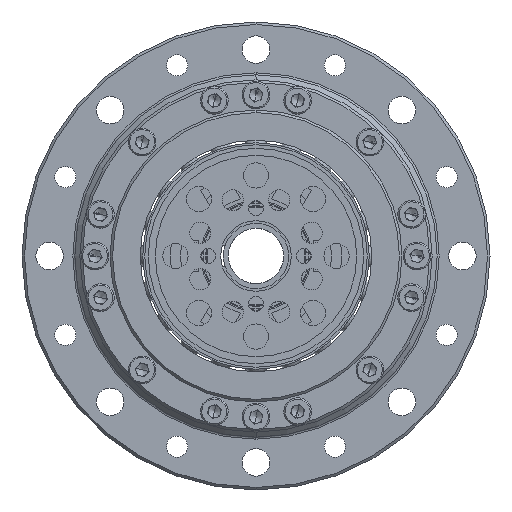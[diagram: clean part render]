
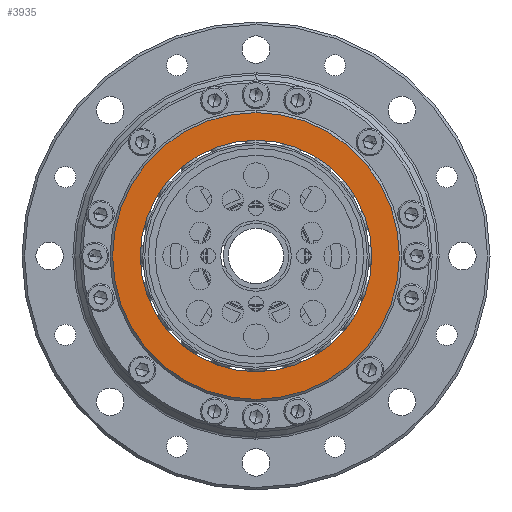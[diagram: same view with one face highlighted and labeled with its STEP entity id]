
A CAD part, left-side view. The second image highlights one B-rep face of the part: STEP entity #3935.
In plain terms, the highlighted planar face has unit normal (-1, 0, 0).
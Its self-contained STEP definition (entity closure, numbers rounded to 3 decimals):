
#675 = CARTESIAN_POINT ( 'NONE',  ( -35.653, -9.167, 64.5 ) ) ;
#779 = VERTEX_POINT ( 'NONE', #4835 ) ;
#795 = DIRECTION ( 'NONE',  ( -1., 0., 0. ) ) ;
#1321 = PLANE ( 'NONE',  #12366 ) ;
#2434 = CARTESIAN_POINT ( 'NONE',  ( -35.653, -9.167, 93. ) ) ;
#2448 = ORIENTED_EDGE ( 'NONE', *, *, #12654, .T. ) ;
#3678 = DIRECTION ( 'NONE',  ( 0., 0., -1. ) ) ;
#3935 = ADVANCED_FACE ( 'NONE', ( #20874, #7182 ), #1321, .T. ) ;
#4835 = CARTESIAN_POINT ( 'NONE',  ( -35.653, -9.167, 70. ) ) ;
#5075 = EDGE_CURVE ( 'NONE', #16882, #15717, #10911, .T. ) ;
#5114 = CARTESIAN_POINT ( 'NONE',  ( -35.653, -9.167, 93. ) ) ;
#5387 = DIRECTION ( 'NONE',  ( -1., 0., 0. ) ) ;
#5569 = ORIENTED_EDGE ( 'NONE', *, *, #5075, .T. ) ;
#6029 = CIRCLE ( 'NONE', #11808, 23. ) ;
#6229 = CIRCLE ( 'NONE', #16557, 23. ) ;
#6856 = DIRECTION ( 'NONE',  ( 0., 0., -1. ) ) ;
#7182 = FACE_BOUND ( 'NONE', #12622, .T. ) ;
#7219 = DIRECTION ( 'NONE',  ( -1., 0., 0. ) ) ;
#8548 = DIRECTION ( 'NONE',  ( -1., 0., 0. ) ) ;
#8573 = AXIS2_PLACEMENT_3D ( 'NONE', #11185, #795, #12888 ) ;
#9785 = AXIS2_PLACEMENT_3D ( 'NONE', #9920, #8548, #10085 ) ;
#9920 = CARTESIAN_POINT ( 'NONE',  ( -35.653, -9.167, 93. ) ) ;
#10085 = DIRECTION ( 'NONE',  ( 0., 0., -1. ) ) ;
#10911 = CIRCLE ( 'NONE', #9785, 28.5 ) ;
#10987 = CIRCLE ( 'NONE', #8573, 28.5 ) ;
#11185 = CARTESIAN_POINT ( 'NONE',  ( -35.653, -9.167, 93. ) ) ;
#11808 = AXIS2_PLACEMENT_3D ( 'NONE', #5114, #17088, #6856 ) ;
#11868 = ORIENTED_EDGE ( 'NONE', *, *, #21406, .F. ) ;
#12366 = AXIS2_PLACEMENT_3D ( 'NONE', #2434, #7219, #3678 ) ;
#12413 = VERTEX_POINT ( 'NONE', #13878 ) ;
#12622 = EDGE_LOOP ( 'NONE', ( #11868, #22197 ) ) ;
#12654 = EDGE_CURVE ( 'NONE', #15717, #16882, #10987, .T. ) ;
#12888 = DIRECTION ( 'NONE',  ( 0., 0., -1. ) ) ;
#13878 = CARTESIAN_POINT ( 'NONE',  ( -35.653, -9.167, 116. ) ) ;
#14410 = EDGE_CURVE ( 'NONE', #12413, #779, #6029, .T. ) ;
#15674 = CARTESIAN_POINT ( 'NONE',  ( -35.653, -9.167, 93. ) ) ;
#15717 = VERTEX_POINT ( 'NONE', #17713 ) ;
#16557 = AXIS2_PLACEMENT_3D ( 'NONE', #15674, #5387, #17372 ) ;
#16882 = VERTEX_POINT ( 'NONE', #675 ) ;
#17088 = DIRECTION ( 'NONE',  ( -1., 0., 0. ) ) ;
#17372 = DIRECTION ( 'NONE',  ( 0., 0., -1. ) ) ;
#17713 = CARTESIAN_POINT ( 'NONE',  ( -35.653, -9.167, 121.5 ) ) ;
#20874 = FACE_OUTER_BOUND ( 'NONE', #22008, .T. ) ;
#21406 = EDGE_CURVE ( 'NONE', #779, #12413, #6229, .T. ) ;
#22008 = EDGE_LOOP ( 'NONE', ( #2448, #5569 ) ) ;
#22197 = ORIENTED_EDGE ( 'NONE', *, *, #14410, .F. ) ;
